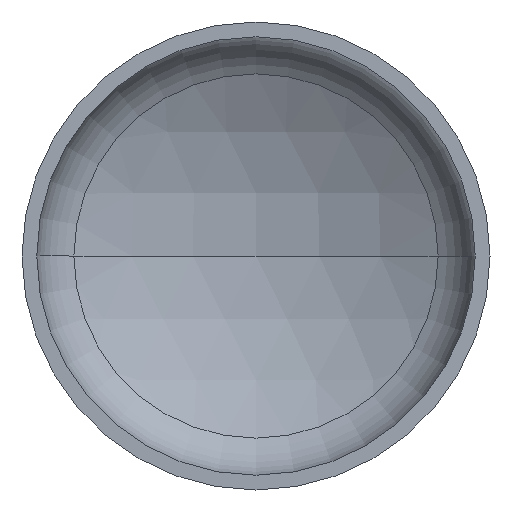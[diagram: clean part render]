
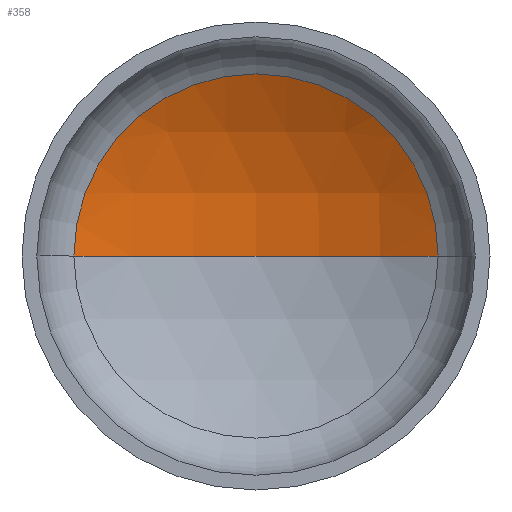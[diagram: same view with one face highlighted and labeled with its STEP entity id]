
A CAD part, front view. The second image highlights one B-rep face of the part: STEP entity #358.
In plain terms, the highlighted spherical face has radius 960 mm.
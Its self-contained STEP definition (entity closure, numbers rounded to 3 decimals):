
#3 = AXIS2_PLACEMENT_3D ( 'NONE', #315, #155, #408 ) ;
#5 = CIRCLE ( 'NONE', #3, 960. ) ;
#25 = EDGE_LOOP ( 'NONE', ( #114, #70, #109 ) ) ;
#29 = AXIS2_PLACEMENT_3D ( 'NONE', #287, #264, #62 ) ;
#30 = AXIS2_PLACEMENT_3D ( 'NONE', #198, #200, #175 ) ;
#62 = DIRECTION ( 'NONE',  ( -1., 0., 0. ) ) ;
#65 = EDGE_CURVE ( 'NONE', #238, #201, #108, .T. ) ;
#66 = EDGE_CURVE ( 'NONE', #144, #238, #392, .T. ) ;
#70 = ORIENTED_EDGE ( 'NONE', *, *, #66, .T. ) ;
#98 = DIRECTION ( 'NONE',  ( -1., 0., 0. ) ) ;
#108 = CIRCLE ( 'NONE', #30, 466.994 ) ;
#109 = ORIENTED_EDGE ( 'NONE', *, *, #65, .T. ) ;
#114 = ORIENTED_EDGE ( 'NONE', *, *, #355, .F. ) ;
#138 = DIRECTION ( 'NONE',  ( 0., 0., -1. ) ) ;
#141 = SPHERICAL_SURFACE ( 'NONE', #219, 960. ) ;
#144 = VERTEX_POINT ( 'NONE', #192 ) ;
#147 = CARTESIAN_POINT ( 'NONE',  ( 466.994, 281.636, 0. ) ) ;
#155 = DIRECTION ( 'NONE',  ( 0., 0., 1. ) ) ;
#175 = DIRECTION ( 'NONE',  ( 1., 0., 0. ) ) ;
#192 = CARTESIAN_POINT ( 'NONE',  ( 0., 402.877, 0. ) ) ;
#198 = CARTESIAN_POINT ( 'NONE',  ( 0., 281.636, 0. ) ) ;
#200 = DIRECTION ( 'NONE',  ( 0., -1., 0. ) ) ;
#201 = VERTEX_POINT ( 'NONE', #260 ) ;
#219 = AXIS2_PLACEMENT_3D ( 'NONE', #334, #138, #98 ) ;
#238 = VERTEX_POINT ( 'NONE', #147 ) ;
#260 = CARTESIAN_POINT ( 'NONE',  ( -466.994, 281.636, 0. ) ) ;
#264 = DIRECTION ( 'NONE',  ( 0., 0., -1. ) ) ;
#287 = CARTESIAN_POINT ( 'NONE',  ( 0., -557.123, 0. ) ) ;
#290 = FACE_OUTER_BOUND ( 'NONE', #25, .T. ) ;
#315 = CARTESIAN_POINT ( 'NONE',  ( 0., -557.123, 0. ) ) ;
#334 = CARTESIAN_POINT ( 'NONE',  ( 0., -557.123, 0. ) ) ;
#355 = EDGE_CURVE ( 'NONE', #144, #201, #5, .T. ) ;
#358 = ADVANCED_FACE ( 'NONE', ( #290 ), #141, .F. ) ;
#392 = CIRCLE ( 'NONE', #29, 960. ) ;
#408 = DIRECTION ( 'NONE',  ( 1., 0., 0. ) ) ;
